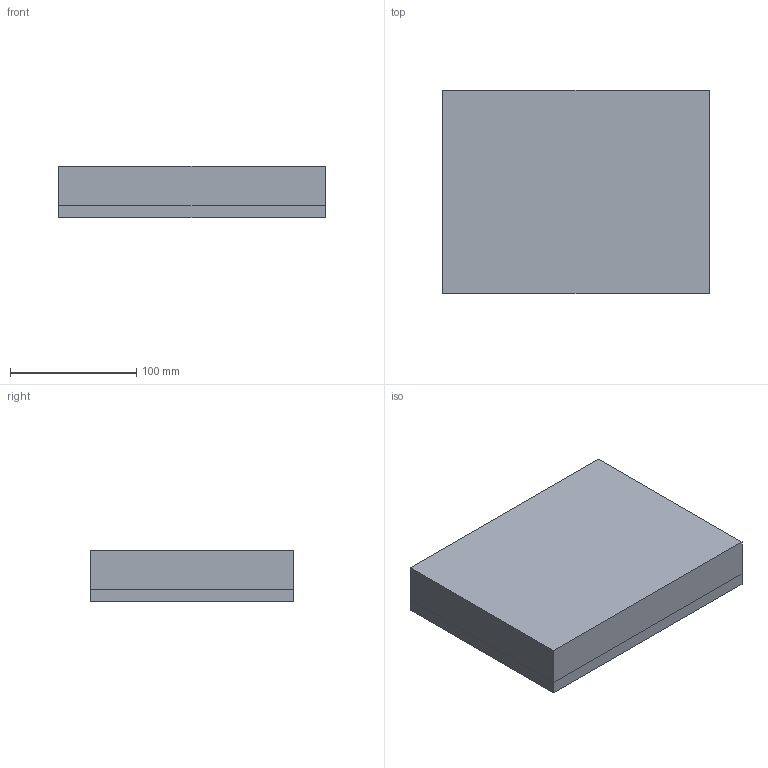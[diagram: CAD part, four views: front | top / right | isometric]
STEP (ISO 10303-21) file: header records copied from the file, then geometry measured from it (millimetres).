
FILE_DESCRIPTION(('CATIA V5 STEP Exchange'),'2;1');
FILE_NAME('C:\_Andres\UNIVERSIDAD\IQS\ASIGNATURAS\DAO\Controles\1920\c2\c2-Ginebreda_Cairo_Guillermo.stp','2020-02-10T15:38:10+00:00',('none'),('none'),'CATIA Version 5 Release 19 SP 3 (IN-10)','CATIA V5 STEP AP203','none');
FILE_SCHEMA(('CONFIG_CONTROL_DESIGN'));
Length unit declared in the file: millimetre
Products named in the file (1): c2-Ginebreda_Cairo_Guillermo
Bounding box: 211 x 161 x 41 mm (x, y, z)
Surface area: 245285.9 mm2
Topology: 3 solids, 3 shells, 103 faces, 232 edges, 128 vertices
Faces by surface type: cylinder 40, plane 27, bspline 24, sphere 12
Entity records: 3348 total; most frequent: CARTESIAN_POINT 1636, ORIENTED_EDGE 440, DIRECTION 224, EDGE_CURVE 164, EDGE_LOOP 110, ADVANCED_FACE 103, FACE_OUTER_BOUND 103, AXIS2_PLACEMENT_3D 96
